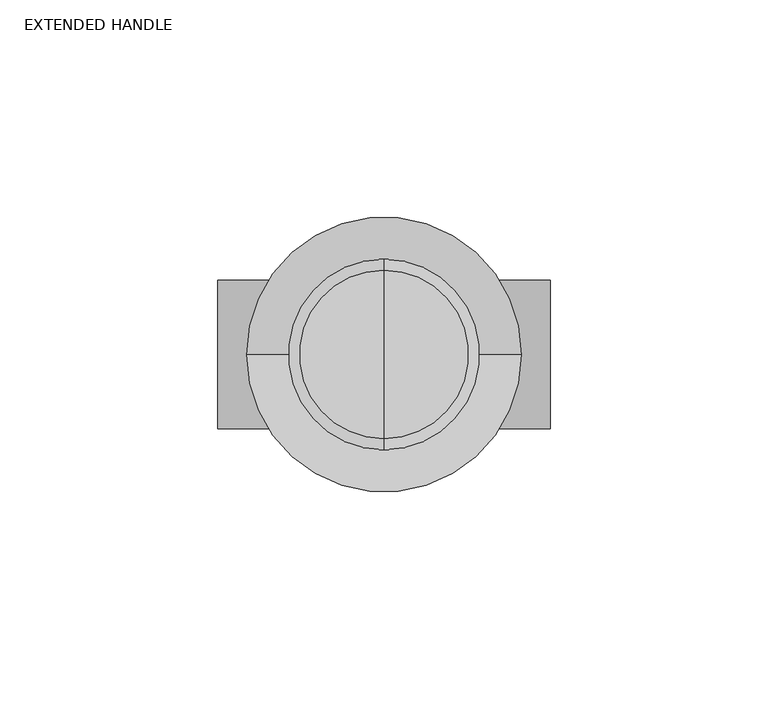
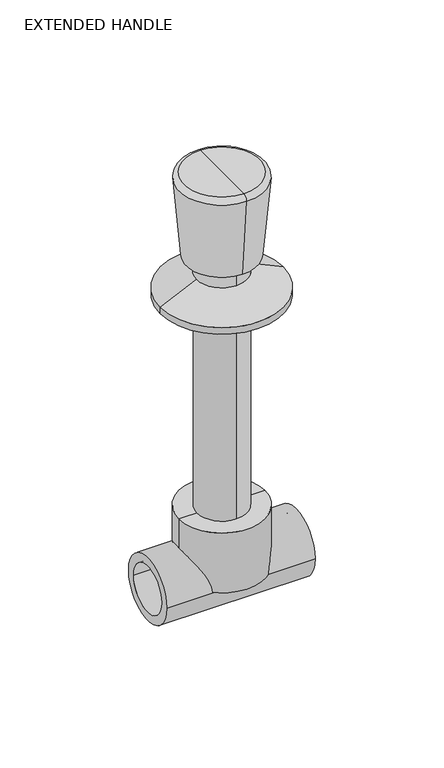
"""IFC4 building model written with IfcOpenShell, lengths in millimetres: valve geometry, Aquatherm - Concealed Valve Extended With Handle : EXTENDED HANDLE."""

from ifc_helpers import new_model, si_unit, point, frame, origin, origin_2d, place, context, project, spatial, polyline, circle_curve, ellipse_curve, trimmed, segment, composite_curve, outline, extrude, source, transform, mapped, element, save
from ifc_brep_helpers import plane_surface, cylinder_surface, revolved_surface, advanced_brep


def extended_handle_e969209c(model_context):
    return source(origin(), model_context, "Body", "SolidModel", [
        advanced_brep(
        [(0.0, 19.3406564, 213.106), (0.0, -19.3406564, 213.106), (0.0, 0.0, 213.106), (0.0, 21.870991, 210.3446244), (0.0, -21.870991, 210.3446244), (0.0, 18.2125979, 168.529), (0.0, -18.2125979, 168.529), (0.0, 12.9442633, 168.529), (0.0, -12.9442633, 168.529), (0.0, 12.9442633, 159.319595), (0.0, -12.9442633, 159.319595), (0.0, 0.0, 159.319595)],
        [
            (0, 1, circle_curve(frame((0.0, 0.0, 213.106), z_axis=(0.0, 0.0, 1.0), x_axis=(0.0, -1.0, 0.0)), 19.3406564)),
            (1, 2),
            (2, 0),
            (1, 0, circle_curve(frame((0.0, 0.0, 213.106), z_axis=(0.0, 0.0, 1.0), x_axis=(0.0, -1.0, 0.0)), 19.3406564)),
            (3, 4, circle_curve(frame((0.0, 0.0, 210.3446244), z_axis=(0.0, 0.0, 1.0), x_axis=(0.0, -1.0, 0.0)), 21.870991)),
            (4, 1, circle_curve(frame((0.0, -19.3406564, 210.566), z_axis=(-1.0, 0.0, 0.0), x_axis=(0.0, -1.0, 0.0)), 2.54)),
            (0, 3, circle_curve(frame((0.0, 19.3406564, 210.566), z_axis=(-1.0, 0.0, 0.0), x_axis=(0.0, 1.0, 0.0)), 2.54)),
            (4, 3, circle_curve(frame((0.0, 0.0, 210.3446244), z_axis=(0.0, 0.0, 1.0), x_axis=(0.0, -1.0, 0.0)), 21.870991)),
            (5, 6, circle_curve(frame((0.0, 0.0, 168.529), z_axis=(0.0, 0.0, 1.0), x_axis=(0.0, -1.0, 0.0)), 18.2125979)),
            (6, 4),
            (3, 5),
            (6, 5, circle_curve(frame((0.0, 0.0, 168.529), z_axis=(0.0, 0.0, 1.0), x_axis=(0.0, -1.0, 0.0)), 18.2125979)),
            (7, 8, circle_curve(frame((0.0, 0.0, 168.529), z_axis=(0.0, 0.0, 1.0), x_axis=(0.0, -1.0, 0.0)), 12.9442633)),
            (8, 6),
            (5, 7),
            (8, 7, circle_curve(frame((0.0, 0.0, 168.529), z_axis=(0.0, 0.0, 1.0), x_axis=(0.0, -1.0, 0.0)), 12.9442633)),
            (9, 10, circle_curve(frame((0.0, 0.0, 159.319595), z_axis=(0.0, 0.0, 1.0), x_axis=(0.0, -1.0, 0.0)), 12.9442633)),
            (10, 8),
            (7, 9),
            (10, 9, circle_curve(frame((0.0, 0.0, 159.319595), z_axis=(0.0, 0.0, 1.0), x_axis=(0.0, -1.0, 0.0)), 12.9442633)),
            (11, 10),
            (9, 11),
        ],
        [
            plane_surface(frame((0.0, 0.0, 213.106), z_axis=(0.0, 0.0, 1.0), x_axis=(0.0, -1.0, 0.0))),
            revolved_surface(trimmed(ellipse_curve(frame((0.0, -19.3406564, 210.566), z_axis=(1.0, 0.0, 0.0), x_axis=(0.0, -1.0, 0.0)), 2.54, 2.54), [point((0.0, -19.3406564, 213.106))], [point((0.0, -21.870991, 210.3446244))], True, "CARTESIAN"), (0.0, 0.0, 235.6856097), (0.0, 0.0, -1.0)),
            revolved_surface(polyline([(0.0, -21.870991, 210.3446244), (0.0, -18.2125979, 168.529)]), (0.0, 0.0, 235.6856097), (0.0, 0.0, -1.0)),
            plane_surface(frame((0.0, 0.0, 168.529), z_axis=(0.0, 0.0, -1.0), x_axis=(0.0, -1.0, 0.0))),
            cylinder_surface(frame((0.0, 0.0, 235.6856097), z_axis=(0.0, 0.0, -1.0), x_axis=(0.0, -1.0, 0.0)), 12.9442633),
            plane_surface(frame((0.0, 0.0, 159.319595), z_axis=(0.0, 0.0, -1.0), x_axis=(0.0, -1.0, 0.0))),
        ],
        [
            (0, [[1, 2, 3]]),
            (0, [[4, -3, -2]]),
            (1, [[5, 6, -1, 7]]),
            (1, [[8, -7, -4, -6]]),
            (2, [[9, 10, -5, 11]]),
            (2, [[12, -11, -8, -10]]),
            (3, [[13, 14, -9, 15]]),
            (3, [[16, -15, -12, -14]]),
            (4, [[17, 18, -13, 19]]),
            (4, [[20, -19, -16, -18]]),
            (5, [[21, -17, 22]]),
            (5, [[-22, -20, -21]]),
        ],
    ),
        advanced_brep(
        [(-12.827, 0.0, 159.319595), (12.827, 0.0, 159.319595), (-31.496, 0.0, 150.6177667), (31.496, 0.0, 150.6177667)],
        [
            (0, 1, circle_curve(frame((0.0, 0.0, 159.319595), z_axis=(0.0, 0.0, 1.0), x_axis=(-1.0, 0.0, 0.0)), 12.827)),
            (1, 0, circle_curve(frame((0.0, 0.0, 159.319595), z_axis=(0.0, 0.0, 1.0), x_axis=(1.0, 0.0, 0.0)), 12.827)),
            (2, 3, circle_curve(frame((0.0, 0.0, 150.6177667), z_axis=(0.0, 0.0, -1.0), x_axis=(1.0, 0.0, 0.0)), 31.496)),
            (3, 2, circle_curve(frame((0.0, 0.0, 150.6177667), z_axis=(0.0, 0.0, -1.0), x_axis=(-1.0, 0.0, 0.0)), 31.496)),
            (3, 1),
            (0, 2),
        ],
        [
            plane_surface(frame((0.0, 0.0, 159.319595), z_axis=(0.0, 0.0, 1.0), x_axis=(0.0, -1.0, 0.0))),
            plane_surface(frame((0.0, 0.0, 150.6177667), z_axis=(0.0, 0.0, -1.0), x_axis=(0.0, -1.0, 0.0))),
            revolved_surface(polyline([(-12.827000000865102, 0.0, 159.319595), (-31.496, 0.0, 150.6177667)]), (0.0, 0.0, 165.2984022), (0.0, 0.0, -1.0)),
            revolved_surface(polyline([(12.827000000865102, 0.0, 159.319595), (31.496, 0.0, 150.6177667)]), (0.0, 0.0, 165.2984022), (0.0, 0.0, -1.0)),
        ],
        [
            (0, [[1, 2]]),
            (1, [[3, 4]]),
            (2, [[-4, 5, -1, 6]]),
            (3, [[-3, -6, -2, -5]]),
        ],
    ),
        extrude(outline(composite_curve([segment(trimmed(circle_curve(origin_2d(), 31.496), [point((-31.496, 0.0))], [point((31.496, 0.0))], False, "CARTESIAN"), True, "CONTINUOUS"), segment(trimmed(circle_curve(origin_2d(), 31.496), [point((31.496, 0.0))], [point((-31.496, 0.0))], False, "CARTESIAN"), True, "CONTINUOUS")], self_intersect=False)), frame((0.0, 0.0, 147.066), z_axis=(0.0, 0.0, 1.0), x_axis=(1.0, 0.0, 0.0)), (0.0, 0.0, 1.0), 3.5517667),
        extrude(outline(composite_curve([segment(trimmed(circle_curve(origin_2d(), 12.827), [point((0.0, 12.827))], [point((0.0, -12.827))], False, "CARTESIAN"), True, "CONTINUOUS"), segment(trimmed(circle_curve(origin_2d(), 12.827), [point((0.0, -12.827))], [point((0.0, 12.827))], False, "CARTESIAN"), True, "CONTINUOUS")], self_intersect=False)), frame((0.0, 0.0, 32.512), z_axis=(0.0, 0.0, 1.0), x_axis=(1.0, 0.0, 0.0)), (0.0, 0.0, 1.0), 114.554),
        advanced_brep(
        [(0.0, 0.0, 32.512), (22.098, 0.0, 32.512), (-22.098, 0.0, 32.512), (-22.098, 0.0, 0.0), (22.098, 0.0, 0.0), (0.0, 0.0, 0.0)],
        [
            (0, 1),
            (1, 2, circle_curve(frame((0.0, 0.0, 32.512), z_axis=(0.0, 0.0, 1.0), x_axis=(1.0, 0.0, 0.0)), 22.098)),
            (2, 0),
            (2, 1, circle_curve(frame((0.0, 0.0, 32.512), z_axis=(0.0, 0.0, 1.0), x_axis=(1.0, 0.0, 0.0)), 22.098)),
            (3, 4, circle_curve(frame((0.0, 0.0, 0.0), z_axis=(0.0, 0.0, -1.0), x_axis=(1.0, 0.0, 0.0)), 22.098)),
            (4, 5),
            (5, 3),
            (4, 3, circle_curve(frame((0.0, 0.0, 0.0), z_axis=(0.0, 0.0, -1.0), x_axis=(1.0, 0.0, 0.0)), 22.098)),
            (1, 4),
            (3, 2),
        ],
        [
            plane_surface(frame((0.0, 0.0, 32.512), z_axis=(0.0, 0.0, 1.0), x_axis=(1.0, 0.0, 0.0))),
            plane_surface(frame((0.0, 0.0, 0.0), z_axis=(0.0, 0.0, -1.0), x_axis=(1.0, 0.0, 0.0))),
            cylinder_surface(frame((0.0, 0.0, 35.6334888), z_axis=(0.0, 0.0, 1.0), x_axis=(1.0, 0.0, 0.0)), 22.098),
        ],
        [
            (0, [[1, 2, 3]]),
            (0, [[-3, 4, -1]]),
            (1, [[5, 6, 7]]),
            (1, [[8, -7, -6]]),
            (2, [[-2, 9, -5, 10]]),
            (2, [[-4, -10, -8, -9]]),
        ],
    ),
        extrude(outline(composite_curve([segment(trimmed(circle_curve(origin_2d(), 17.018), [point((-17.018, 0.0))], [point((17.018, 0.0))], False, "CARTESIAN"), True, "CONTINUOUS"), segment(trimmed(circle_curve(origin_2d(), 17.018), [point((17.018, 0.0))], [point((-17.018, 0.0))], False, "CARTESIAN"), True, "CONTINUOUS")], self_intersect=False), holes=[composite_curve([segment(trimmed(circle_curve(origin_2d(), 12.446), [point((-12.446, 0.0))], [point((12.446, 0.0))], True, "CARTESIAN"), True, "CONTINUOUS"), segment(trimmed(circle_curve(origin_2d(), 12.446), [point((12.446, 0.0))], [point((-12.446, 0.0))], True, "CARTESIAN"), True, "CONTINUOUS")], self_intersect=False)]), frame((-38.1, 0.0, 0.0), z_axis=(1.0, 0.0, 0.0), x_axis=(0.0, 1.0, 0.0)), (0.0, 0.0, 1.0), 76.2),
    ])


if __name__ == "__main__":
    model = new_model("IFC4")
    model_context = context("Model", 3, world=origin())
    ifc_project = project(units=[si_unit("LENGTHUNIT", "METRE", prefix="MILLI")], contexts=[model_context])
    site = spatial("IfcSite", under=ifc_project)
    building = spatial("IfcBuilding", under=site)
    placement = place(None, origin())
    extended_handle_shape = extended_handle_e969209c(model_context)
    element("IfcValve", 1, ObjectType="Aquatherm - Concealed Valve Extended With Handle : EXTENDED HANDLE", at=placement, inside=building, context=model_context, shape_type="MappedRepresentation", body=[
        mapped(extended_handle_shape, transform((0.0, 0.0, 0.0), x_axis=(1.0, 0.0, 0.0), y_axis=(0.0, 1.0, 0.0), z_axis=(0.0, 0.0, 1.0))),
    ])
    save(model, "model.ifc")
